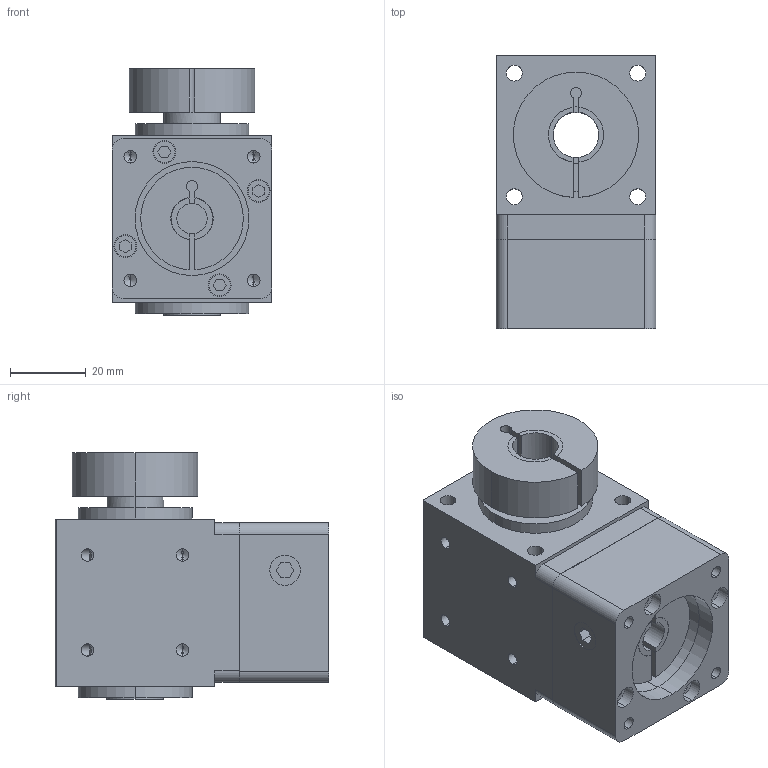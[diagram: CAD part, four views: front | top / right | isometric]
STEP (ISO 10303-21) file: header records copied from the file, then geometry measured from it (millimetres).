
FILE_DESCRIPTION (( 'STEP AP203' ), '1' );
FILE_NAME ('T42-C1单级模型（M4-46）.STEP', '2021-08-09T09:26:21', ( '' ), ( '' ), 'SwSTEP 2.0', 'SolidWorks 2016', '' );
FILE_SCHEMA (( 'CONFIG_CONTROL_DESIGN' ));
Length unit declared in the file: millimetre
Products named in the file (1): T42-C1单级模型（M4-46）
Bounding box: 42.1 x 72 x 65 mm (x, y, z)
Volume: 124356.7 mm3; surface area: 31408.4 mm2
Topology: 1 solids, 1 shells, 280 faces, 682 edges, 424 vertices
Faces by surface type: cylinder 134, plane 102, cone 44
Entity records: 8279 total; most frequent: CARTESIAN_POINT 1599, DIRECTION 1420, ORIENTED_EDGE 1332, EDGE_CURVE 666, AXIS2_PLACEMENT_3D 533, VERTEX_POINT 424, VECTOR 354, LINE 354
